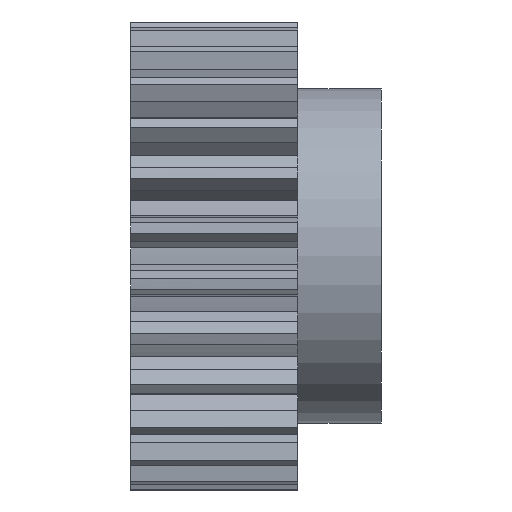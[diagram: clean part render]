
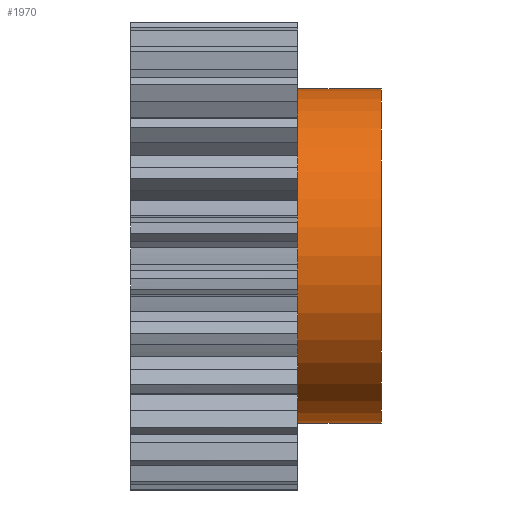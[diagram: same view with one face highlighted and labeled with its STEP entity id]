
A CAD part, front view. The second image highlights one B-rep face of the part: STEP entity #1970.
In plain terms, the highlighted cylindrical face has radius 50 mm (diameter 100 mm), a partial arc.
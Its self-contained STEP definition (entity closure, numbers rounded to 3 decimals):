
#710 = VERTEX_POINT ( 'NONE', #3312 ) ;
#747 = EDGE_CURVE ( 'NONE', #710, #749, #3354, .T. ) ;
#749 = VERTEX_POINT ( 'NONE', #3350 ) ;
#752 = EDGE_CURVE ( 'NONE', #759, #755, #3347, .T. ) ;
#755 = VERTEX_POINT ( 'NONE', #3355 ) ;
#759 = VERTEX_POINT ( 'NONE', #3344 ) ;
#1840 = EDGE_CURVE ( 'NONE', #749, #755, #5251, .T. ) ;
#1852 = EDGE_CURVE ( 'NONE', #759, #710, #5288, .T. ) ;
#1970 = ADVANCED_FACE ( 'NONE', ( #5331 ), #5327, .T. ) ;
#1971 = ORIENTED_EDGE ( 'NONE', *, *, #747, .T. ) ;
#1973 = ORIENTED_EDGE ( 'NONE', *, *, #1840, .T. ) ;
#1979 = EDGE_LOOP ( 'NONE', ( #1986, #1984, #1971, #1973 ) ) ;
#1984 = ORIENTED_EDGE ( 'NONE', *, *, #1852, .T. ) ;
#1986 = ORIENTED_EDGE ( 'NONE', *, *, #752, .F. ) ;
#3312 = CARTESIAN_POINT ( 'NONE',  ( 50., 0., 50. ) ) ;
#3344 = CARTESIAN_POINT ( 'NONE',  ( 50., 0., -50. ) ) ;
#3345 = VECTOR ( 'NONE', #3405, 1000. ) ;
#3346 = CARTESIAN_POINT ( 'NONE',  ( 25., 0., -50. ) ) ;
#3347 = LINE ( 'NONE', #3346, #3345 ) ;
#3350 = CARTESIAN_POINT ( 'NONE',  ( 25., 0., 50. ) ) ;
#3351 = DIRECTION ( 'NONE',  ( -1., 0., 0. ) ) ;
#3352 = VECTOR ( 'NONE', #3351, 1000. ) ;
#3353 = CARTESIAN_POINT ( 'NONE',  ( 25., 0., 50. ) ) ;
#3354 = LINE ( 'NONE', #3353, #3352 ) ;
#3355 = CARTESIAN_POINT ( 'NONE',  ( 25., 0., -50. ) ) ;
#3405 = DIRECTION ( 'NONE',  ( -1., 0., 0. ) ) ;
#5251 = CIRCLE ( 'NONE', #5302, 50. ) ;
#5284 = DIRECTION ( 'NONE',  ( 0., 0., 1. ) ) ;
#5285 = DIRECTION ( 'NONE',  ( -1., 0., 0. ) ) ;
#5286 = CARTESIAN_POINT ( 'NONE',  ( 50., 0., 0. ) ) ;
#5287 = AXIS2_PLACEMENT_3D ( 'NONE', #5286, #5285, #5284 ) ;
#5288 = CIRCLE ( 'NONE', #5287, 50. ) ;
#5294 = DIRECTION ( 'NONE',  ( -1., 0., 0. ) ) ;
#5299 = DIRECTION ( 'NONE',  ( 0., 0., 1. ) ) ;
#5300 = DIRECTION ( 'NONE',  ( 1., 0., 0. ) ) ;
#5301 = CARTESIAN_POINT ( 'NONE',  ( 25., 0., 0. ) ) ;
#5302 = AXIS2_PLACEMENT_3D ( 'NONE', #5301, #5300, #5299 ) ;
#5324 = CARTESIAN_POINT ( 'NONE',  ( 25., 0., 0. ) ) ;
#5327 = CYLINDRICAL_SURFACE ( 'NONE', #5340, 50. ) ;
#5331 = FACE_OUTER_BOUND ( 'NONE', #1979, .T. ) ;
#5332 = DIRECTION ( 'NONE',  ( 0., 0., 1. ) ) ;
#5340 = AXIS2_PLACEMENT_3D ( 'NONE', #5324, #5294, #5332 ) ;
